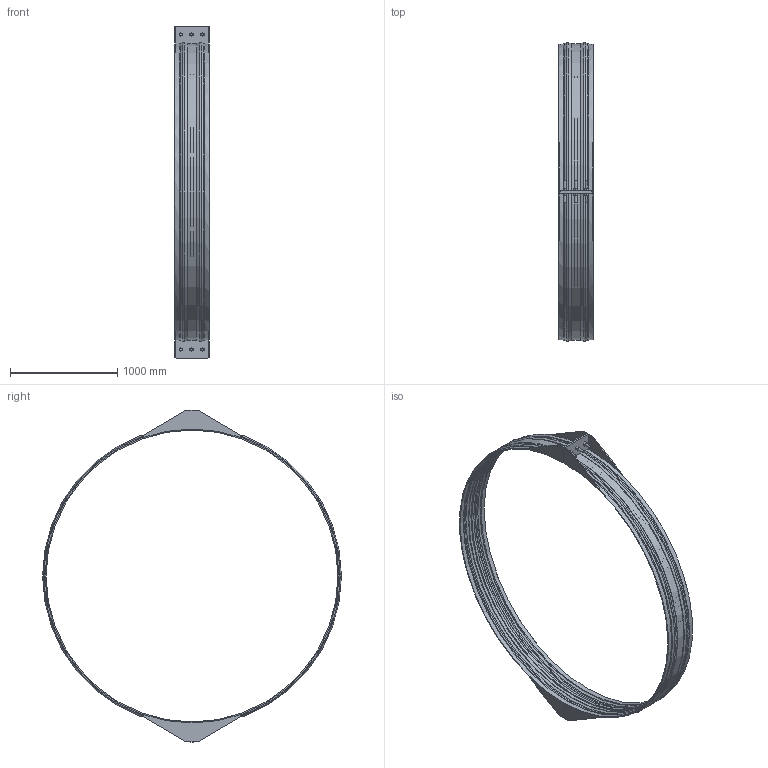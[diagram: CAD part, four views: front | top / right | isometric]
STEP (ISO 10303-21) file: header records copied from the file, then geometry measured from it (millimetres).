
FILE_DESCRIPTION(/* description */ ('VIC RESTRAINED COUPLING STYLE 233 (FLEX) (BRD)','CAx-IF Rec.Pracs.---Representation and Presentation of Product Manufacturing Information (PMI)---4.0---2014-10-13'),/* implementation_level */ '2;1');
FILE_NAME(/* name */ 'C:\Users\Vjadhav\Desktop\CAD for Inventor\Test for STEP\Vivek\Adsk_Inventor_Bolted Sleeve_iParts\STEP\Victaulic_VBSP_Coupling Flexible Restrained_Style 233 (BRD)\Victaulic_VBSP_Coupling Flexible Restrained_Style 233 (BRD)_75psi_108 (2700).stp',/* time_stamp */ '2020-09-24T12:31:51+05:00',/* author */ ('Vjadhav'),/* organization */ ('Victaulic'),/* preprocessor_version */ 'ST-DEVELOPER v17.2',/* originating_system */ 'Autodesk Inventor 2019',/* authorisation */ '');
FILE_SCHEMA (('AP242_MANAGED_MODEL_BASED_3D_ENGINEERING_MIM_LF { 1 0 10303 442 1 1 4 }'));
Length unit declared in the file: inch
Products named in the file (1): Style_233_Type_2_75psi-108.0
Bounding box: 317.5 x 2788.94 x 3098.8 mm (x, y, z)
Volume: 34512247.5 mm3; surface area: 6957858.6 mm2
Topology: 1 solids, 1 shells, 203 faces, 541 edges, 366 vertices
Faces by surface type: plane 134, cylinder 39, torus 18, cone 12
Full cylindrical faces by diameter (mm): 22.225 x12, 2724.15 x1, 2743.2 x2, 2749.55 x2
Entity records: 6848 total; most frequent: CARTESIAN_POINT 1320, DIRECTION 1095, ORIENTED_EDGE 1082, EDGE_CURVE 541, LINE 373, VECTOR 373, VERTEX_POINT 366, AXIS2_PLACEMENT_3D 361
